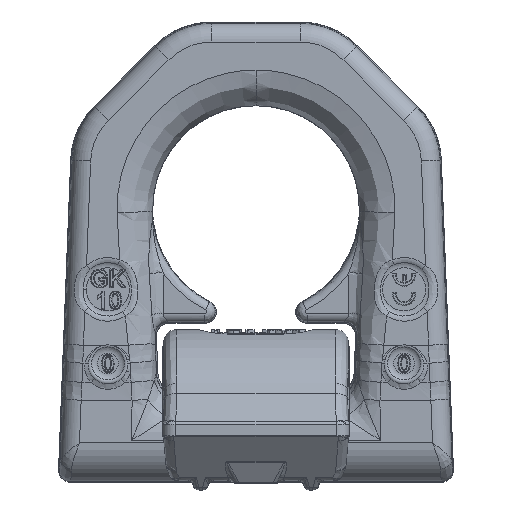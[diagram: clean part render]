
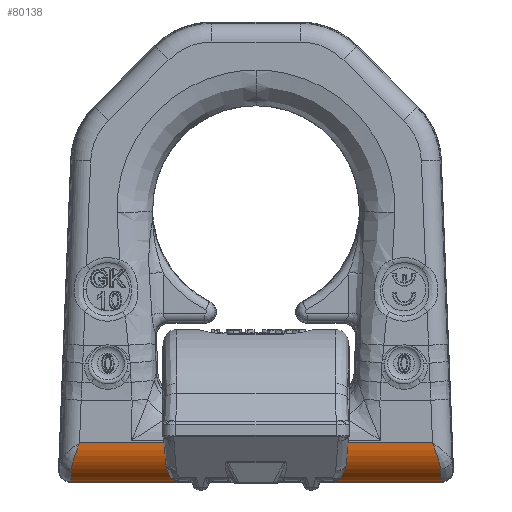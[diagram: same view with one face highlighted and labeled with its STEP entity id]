
A CAD part, left-side view. The second image highlights one B-rep face of the part: STEP entity #80138.
In plain terms, the highlighted cylindrical face has radius 13 mm (diameter 26 mm), a partial arc.
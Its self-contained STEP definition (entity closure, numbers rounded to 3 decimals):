
#70103=CARTESIAN_POINT('',(-3.5,-60.106,
-13.312));
#70104=VERTEX_POINT('Vertex1595',#70103);
#74039=CARTESIAN_POINT('',(-10.203,-59.737,
-9.087));
#74040=VERTEX_POINT('Vertex1622',#74039);
#74048=CARTESIAN_POINT('',(-0.25,-59.878,
-0.725));
#74049=DIRECTION('',(-0.037,-0.999,0.028)
);
#74050=DIRECTION('',(-0.802,0.047,0.595));
#74051=AXIS2_PLACEMENT_3D('',#74048,#74049,#74050);
#74052=ELLIPSE('nurbsCrv2584',#74051,13.014,13.);
#74053=EDGE_CURVE('Edge2584',#74040,#70104,#74052,.T.);
#74129=CARTESIAN_POINT('',(-13.25,-57.206,-0.725));
#74130=VERTEX_POINT('Vertex1623',#74129);
#74146=CARTESIAN_POINT('',(-13.25,-57.206,-0.725));
#74147=CARTESIAN_POINT('',(-13.25,-57.208,-0.73));
#74148=CARTESIAN_POINT('',(-13.25,-57.21,
-0.736));
#74149=CARTESIAN_POINT('',(-13.249,-57.584,-1.709
));
#74150=CARTESIAN_POINT('',(-13.139,-57.958,
-2.683));
#74151=CARTESIAN_POINT('',(-12.702,-58.645,-4.58
));
#74152=CARTESIAN_POINT('',(-12.377,-58.964,
-5.516));
#74153=CARTESIAN_POINT('',(-11.657,-59.383,
-6.992));
#74154=CARTESIAN_POINT('',(-11.333,-59.52,-7.552)
);
#74155=CARTESIAN_POINT('',(-10.724,-59.676,
-8.436));
#74156=CARTESIAN_POINT('',(-10.472,-59.718,-8.768
));
#74157=CARTESIAN_POINT('',(-10.203,-59.737,
-9.087));
#74158=B_SPLINE_CURVE_WITH_KNOTS('nurbsCrv2586',3,(#74146,#74147,#74148,#74149,
#74150,#74151,#74152,#74153,#74154,#74155,#74156,#74157),.UNSPECIFIED.,.F.,.F.,
(4,2,2,2,2,4),(-7.004,-6.99,-4.633,
-2.335,-0.898,0.),.UNSPECIFIED.);
#74159=EDGE_CURVE('Edge2586',#74130,#74040,#74158,.T.);
#76644=CARTESIAN_POINT('',(-3.5,60.106,-13.312
));
#76645=VERTEX_POINT('Vertex1664',#76644);
#76646=CARTESIAN_POINT('',(-3.5,0.,-13.312));
#76647=DIRECTION('',(0.,1.,0.));
#76648=VECTOR('',#76647,1.);
#76649=LINE('nurbsCrv2659',#76646,#76648);
#76650=EDGE_CURVE('Edge2659',#70104,#76645,#76649,.T.);
#80096=ORIENTED_EDGE('Edgeuse5343',*,*,#76650,.F.);
#80097=ORIENTED_EDGE('Edgeuse5344',*,*,#74053,.F.);
#80098=ORIENTED_EDGE('Edgeuse5345',*,*,#74159,.F.);
#80099=CARTESIAN_POINT('',(-13.25,57.206,-0.725));
#80100=VERTEX_POINT('Vertex1695',#80099);
#80101=CARTESIAN_POINT('',(-13.25,0.,-0.725));
#80102=DIRECTION('',(0.,1.,0.));
#80103=VECTOR('',#80102,1.);
#80104=LINE('nurbsCrv2721',#80101,#80103);
#80105=EDGE_CURVE('Edge2721',#74130,#80100,#80104,.T.);
#80106=ORIENTED_EDGE('Edgeuse5346',*,*,#80105,.T.);
#80107=CARTESIAN_POINT('',(-10.203,59.737,-9.087
));
#80108=VERTEX_POINT('Vertex1696',#80107);
#80109=CARTESIAN_POINT('',(-13.25,57.206,-0.725));
#80110=CARTESIAN_POINT('',(-13.25,57.208,-0.73));
#80111=CARTESIAN_POINT('',(-13.25,57.21,
-0.736));
#80112=CARTESIAN_POINT('',(-13.249,57.584,-1.709)
);
#80113=CARTESIAN_POINT('',(-13.139,57.958,-2.683
));
#80114=CARTESIAN_POINT('',(-12.702,58.645,-4.58)
);
#80115=CARTESIAN_POINT('',(-12.377,58.964,-5.516
));
#80116=CARTESIAN_POINT('',(-11.657,59.383,-6.992
));
#80117=CARTESIAN_POINT('',(-11.333,59.52,-7.552));
#80118=CARTESIAN_POINT('',(-10.724,59.676,-8.436
));
#80119=CARTESIAN_POINT('',(-10.472,59.718,-8.768)
);
#80120=CARTESIAN_POINT('',(-10.203,59.737,-9.087
));
#80121=B_SPLINE_CURVE_WITH_KNOTS('nurbsCrv2722',3,(#80109,#80110,#80111,#80112,
#80113,#80114,#80115,#80116,#80117,#80118,#80119,#80120),.UNSPECIFIED.,.F.,.F.,
(4,2,2,2,2,4),(-7.004,-6.99,-4.633,
-2.335,-0.898,0.),.UNSPECIFIED.);
#80122=EDGE_CURVE('Edge2722',#80100,#80108,#80121,.T.);
#80123=ORIENTED_EDGE('Edgeuse5347',*,*,#80122,.T.);
#80124=CARTESIAN_POINT('',(-0.25,59.878,
-0.725));
#80125=DIRECTION('',(0.037,-0.999,-0.028)
);
#80126=DIRECTION('',(-0.802,-0.047,0.595)
);
#80127=AXIS2_PLACEMENT_3D('',#80124,#80125,#80126);
#80128=ELLIPSE('nurbsCrv2723',#80127,13.014,13.);
#80129=EDGE_CURVE('Edge2723',#80108,#76645,#80128,.T.);
#80130=ORIENTED_EDGE('Edgeuse5348',*,*,#80129,.T.);
#80131=EDGE_LOOP('',(#80096,#80097,#80098,#80106,#80123,#80130));
#80132=FACE_OUTER_BOUND('',#80131,.T.);
#80133=CARTESIAN_POINT('',(-0.25,66.117,
-0.725));
#80134=DIRECTION('',(0.,-1.,0.));
#80135=DIRECTION('',(0.791,0.,0.612)
);
#80136=AXIS2_PLACEMENT_3D('',#80133,#80134,#80135);
#80137=CYLINDRICAL_SURFACE('nurbsSrf1063',#80136,13.);
#80138=ADVANCED_FACE('Face1063',(#80132),#80137,.T.);
